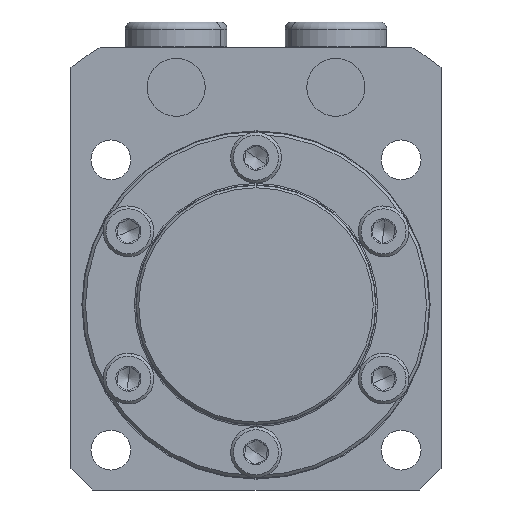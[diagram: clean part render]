
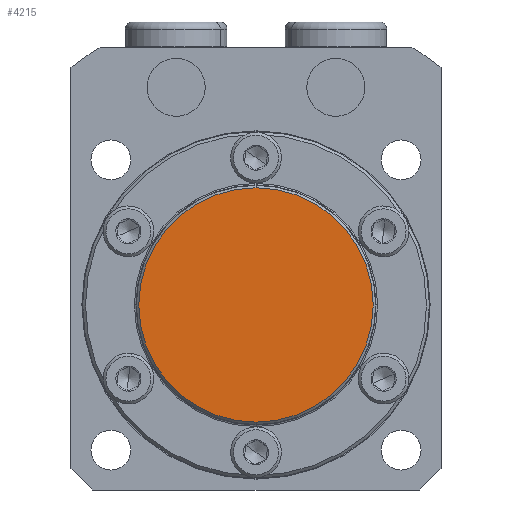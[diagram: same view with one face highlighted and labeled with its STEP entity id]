
A CAD part, front view. The second image highlights one B-rep face of the part: STEP entity #4215.
In plain terms, the highlighted planar face has unit normal (0, -1, 0).
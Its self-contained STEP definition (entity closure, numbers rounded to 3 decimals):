
#198 = CARTESIAN_POINT ( 'NONE',  ( 0., -8.5, 0. ) ) ;
#349 = EDGE_CURVE ( 'NONE', #4080, #2052, #4667, .T. ) ;
#376 = AXIS2_PLACEMENT_3D ( 'NONE', #198, #3236, #645 ) ;
#645 = DIRECTION ( 'NONE',  ( 0., 0., -1. ) ) ;
#996 = CARTESIAN_POINT ( 'NONE',  ( 0., -8.5, 0. ) ) ;
#1097 = FACE_OUTER_BOUND ( 'NONE', #3833, .T. ) ;
#1159 = CARTESIAN_POINT ( 'NONE',  ( 0., -8.5, 16.15 ) ) ;
#1427 = DIRECTION ( 'NONE',  ( 0., 0., -1. ) ) ;
#1814 = ORIENTED_EDGE ( 'NONE', *, *, #1894, .T. ) ;
#1894 = EDGE_CURVE ( 'NONE', #2052, #4080, #5187, .T. ) ;
#2052 = VERTEX_POINT ( 'NONE', #3179 ) ;
#2434 = DIRECTION ( 'NONE',  ( 0., -1., 0. ) ) ;
#3179 = CARTESIAN_POINT ( 'NONE',  ( 0., -8.5, -16.15 ) ) ;
#3236 = DIRECTION ( 'NONE',  ( 0., -1., 0. ) ) ;
#3271 = CARTESIAN_POINT ( 'NONE',  ( 0., -8.5, 0. ) ) ;
#3371 = AXIS2_PLACEMENT_3D ( 'NONE', #3271, #2434, #5456 ) ;
#3619 = AXIS2_PLACEMENT_3D ( 'NONE', #996, #4012, #1427 ) ;
#3833 = EDGE_LOOP ( 'NONE', ( #4555, #1814 ) ) ;
#4012 = DIRECTION ( 'NONE',  ( 0., -1., 0. ) ) ;
#4080 = VERTEX_POINT ( 'NONE', #1159 ) ;
#4145 = PLANE ( 'NONE',  #3371 ) ;
#4215 = ADVANCED_FACE ( 'NONE', ( #1097 ), #4145, .T. ) ;
#4555 = ORIENTED_EDGE ( 'NONE', *, *, #349, .T. ) ;
#4667 = CIRCLE ( 'NONE', #3619, 16.15 ) ;
#5187 = CIRCLE ( 'NONE', #376, 16.15 ) ;
#5456 = DIRECTION ( 'NONE',  ( 0., 0., -1. ) ) ;
